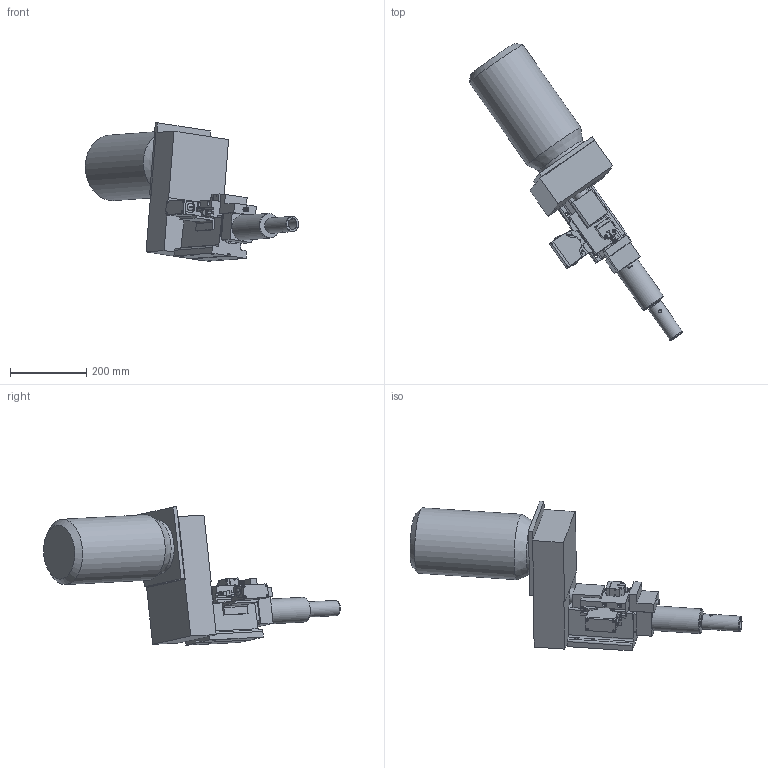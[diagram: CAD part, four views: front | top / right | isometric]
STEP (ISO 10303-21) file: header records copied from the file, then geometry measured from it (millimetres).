
FILE_DESCRIPTION((''),'2;1');
FILE_NAME('C:\VaultWork\Zeichnungen\Maßblätter\Gewindemaschinen\G6-50\G01417-2-0 Maßblatt G6-50 mit Z-Laterne und Stellhülsenaufnahme Gr. 28.stp','2009-06-26T10:57:35',('Test'),(''),'Autodesk Inventor 2008','Autodesk Inventor 2008','');
FILE_SCHEMA(('AUTOMOTIVE_DESIGN { 1 0 10303 214 1 1 1 1 }'));
Length unit declared in the file: millimetre
Products named in the file (1): G01417-2-0 Maßblatt G6-50 mit Z-Laterne und Stellhülsenaufnahme Gr. 28
Bounding box: 559.65 x 779.03 x 363.07 mm (x, y, z)
Volume: 13731975.3 mm3; surface area: 642957.7 mm2
Topology: 3 solids, 3 shells, 522 faces, 1368 edges, 890 vertices
Faces by surface type: plane 355, cylinder 92, cone 37, torus 18, bspline 16, sphere 4
Full cylindrical faces by diameter (mm): 3.8 x2, 4 x2, 4.3 x2, 4.917 x2, 5.9 x2, 5.97 x1, 6 x3, 6.6 x2, 6.647 x1, 7.323 x1, 8 x6, 9.98 x2, 10 x2, 11.4 x1, 13 x1, 16 x1, 20 x2, 28 x1, 28.5 x1, 29 x1, 32 x1, 35 x1, 40 x2, 65 x1, 140 x1, 172 x1
Entity records: 16718 total; most frequent: CARTESIAN_POINT 3831, ORIENTED_EDGE 2494, DIRECTION 2486, EDGE_CURVE 1247, VERTEX_POINT 851, VECTOR 836, LINE 836, AXIS2_PLACEMENT_3D 825
